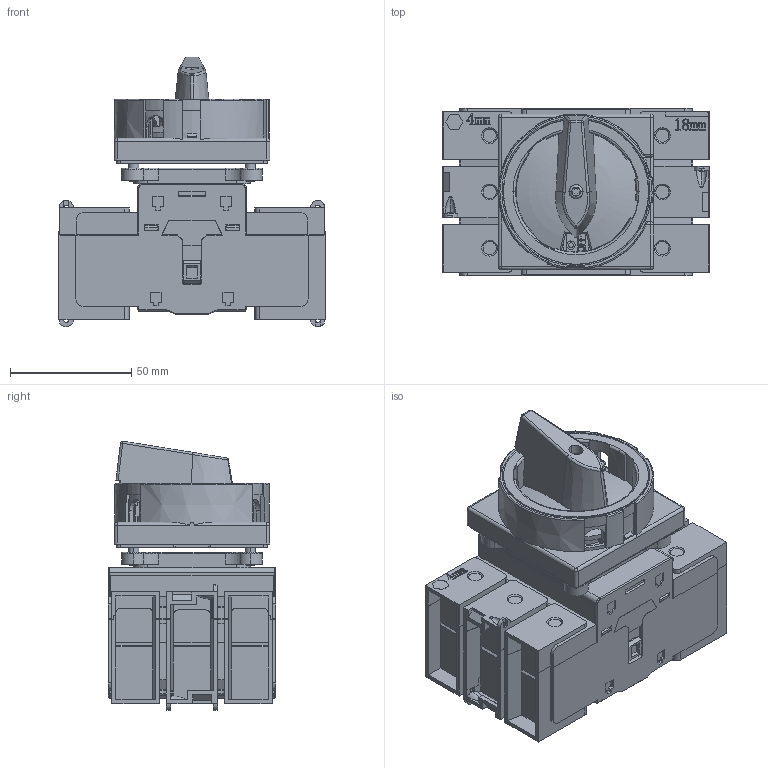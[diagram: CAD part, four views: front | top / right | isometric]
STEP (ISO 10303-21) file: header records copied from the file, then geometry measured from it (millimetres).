
FILE_DESCRIPTION (( 'STEP AP203' ), '1' );
FILE_NAME ('NF2-125PM.STEP', '2024-03-01T06:08:32', ( 'wzjh' ), ( '' ), 'SwSTEP 2.0', 'SolidWorks 2023', '' );
FILE_SCHEMA (( 'CONFIG_CONTROL_DESIGN' ));
Products named in the file (1): NF2-125PM
Bounding box: 109.6 x 69.1 x 111.05 mm (x, y, z)
Volume: 398191.4 mm3; surface area: 167580.5 mm2
Topology: 5 solids, 40 shells, 3809 faces, 10653 edges, 6937 vertices
Faces by surface type: plane 2432, cylinder 862, cone 196, bspline 166, torus 122, sphere 31
Entity records: 133214 total; most frequent: CARTESIAN_POINT 35002, ORIENTED_EDGE 21206, DIRECTION 19640, EDGE_CURVE 10603, VECTOR 7334, LINE 7334, VERTEX_POINT 6928, AXIS2_PLACEMENT_3D 6153
